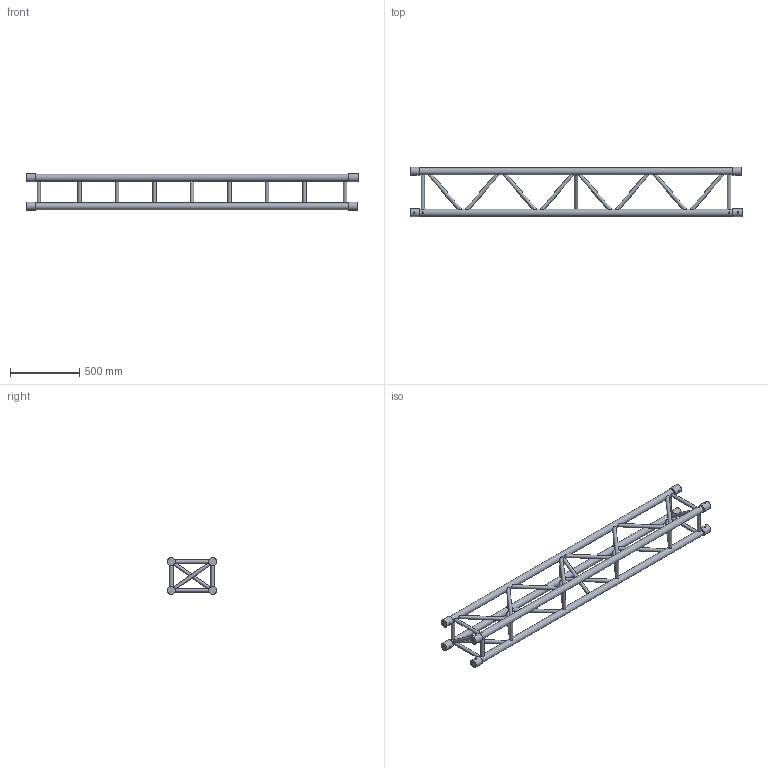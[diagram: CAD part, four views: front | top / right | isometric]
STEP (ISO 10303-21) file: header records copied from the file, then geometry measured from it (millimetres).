
FILE_DESCRIPTION(/* description */ (''),/* implementation_level */ '2;1');
FILE_NAME(/* name */ 'C:\Users\adrian.toca\Desktop\111110050.stp',/* time_stamp */ '2016-09-14T12:43:26+03:00',/* author */ ('adrian.toca'),/* organization */ (''),/* preprocessor_version */ 'ST-DEVELOPER v15.6',/* originating_system */ 'Autodesk Inventor 2015',/* authorisation */ '');
FILE_SCHEMA (('AUTOMOTIVE_DESIGN { 1 0 10303 214 3 1 1 }'));
Length unit declared in the file: millimetre
Products named in the file (1): 260030904
Bounding box: 2400 x 357.8 x 265.8 mm (x, y, z)
Volume: 23606144.7 mm3; surface area: 2292435.7 mm2
Topology: 16 solids, 22 shells, 220 faces, 428 edges, 264 vertices
Faces by surface type: cylinder 114, plane 98, cone 8
Full cylindrical faces by diameter (mm): 10 x8, 25 x34, 50 x4, 58.8 x8
Entity records: 7231 total; most frequent: CARTESIAN_POINT 3259, DIRECTION 736, ORIENTED_EDGE 660, EDGE_LOOP 356, AXIS2_PLACEMENT_3D 347, EDGE_CURVE 292, VERTEX_POINT 214, STYLED_ITEM 194
